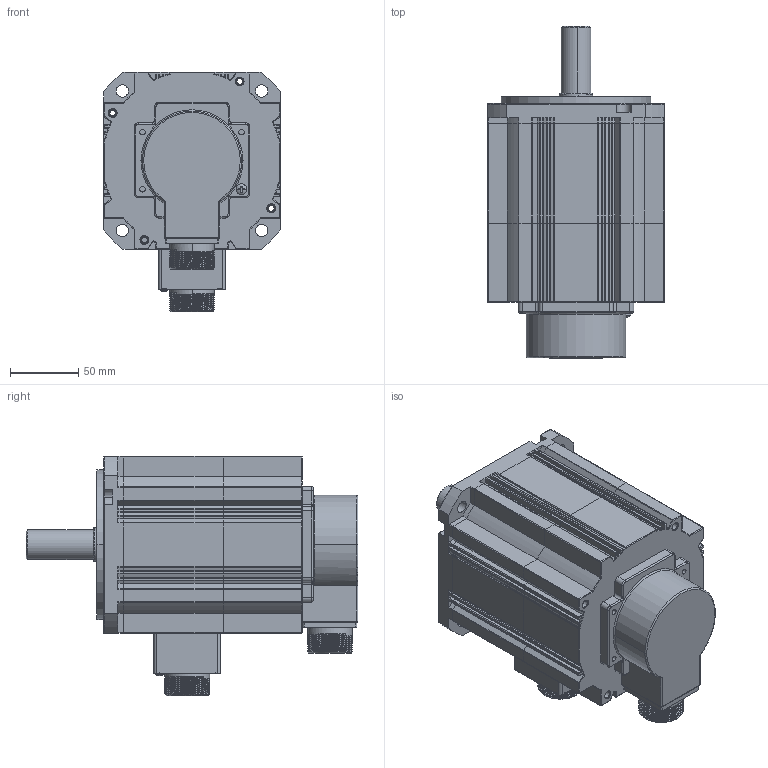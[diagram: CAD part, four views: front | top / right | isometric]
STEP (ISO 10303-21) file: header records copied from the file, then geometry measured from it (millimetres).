
FILE_DESCRIPTION (( 'STEP AP203' ), '1' );
FILE_NAME ('WF130BST-Z1M05415-´ó¹ßÁ¿.STEP', '2022-09-06T10:12:12', ( '' ), ( '' ), 'SwSTEP 2.0', 'SolidWorks 2018', '' );
FILE_SCHEMA (( 'CONFIG_CONTROL_DESIGN' ));
Length unit declared in the file: millimetre
Products named in the file (18): deep groove ball bearings gb_Rolling bearings 6205 GB 276-94.STEP; __.STEP; ____2.STEP; ______-3.STEP; ________-2.STEP; ________.STEP; ______-1.STEP; WF130ST-Z1M047720.STEP; WF130BST-Z1M05415-湮嫦講; ______-0.STEP; cross recessed pan head screws gb_GB_CROSS_SCREWS_TYPE1 M3X12-12  H type-N.STEP; ________-1.STEP; __________.STEP; deep groove ball bearings gb_Rolling bearings 6204 GB 276-94.STEP; ______.STEP; hexagon socket head cap screws gb_GB_FASTENER_SCREWS_HSHCS M5X20-N.STEP; cross recessed pan head screws gb_GB_CROSS_SCREWS_TYPE1 M4X12-12  H type-N.STEP; jike.STEP
Assembly tree (21 placements, depth 4):
  WF130BST-Z1M05415-湮嫦講
    WF130ST-Z1M047720.STEP
      ________.STEP
        ______.STEP
        ____2.STEP
        ______-0.STEP
      ________-1.STEP
        __.STEP
        deep groove ball bearings gb_Rolling bearings 6205 GB 276-94.STEP  x2
        deep groove ball bearings gb_Rolling bearings 6204 GB 276-94.STEP  x2
      jike.STEP
      ______-1.STEP
      ________-2.STEP
      ____2.STEP
      hexagon socket head cap screws gb_GB_FASTENER_SCREWS_HSHCS M5X20-N.STEP
      cross recessed pan head screws gb_GB_CROSS_SCREWS_TYPE1 M4X12-12  H type-N.STEP
      cross recessed pan head screws gb_GB_CROSS_SCREWS_TYPE1 M3X12-12  H type-N.STEP  x2
      ______-3.STEP
      __________.STEP
Bounding box: 130 x 244 x 176 mm (x, y, z)
Volume: 1083042.6 mm3; surface area: 394472.2 mm2
Topology: 18 solids, 18 shells, 2307 faces, 6722 edges, 4073 vertices
Faces by surface type: cylinder 899, plane 561, torus 369, sphere 344, bspline 114, cone 20
Entity records: 73884 total; most frequent: CARTESIAN_POINT 24495, ORIENTED_EDGE 10160, DIRECTION 9973, EDGE_CURVE 5080, AXIS2_PLACEMENT_3D 3998, VERTEX_POINT 3176, CIRCLE 2142, EDGE_LOOP 2098
